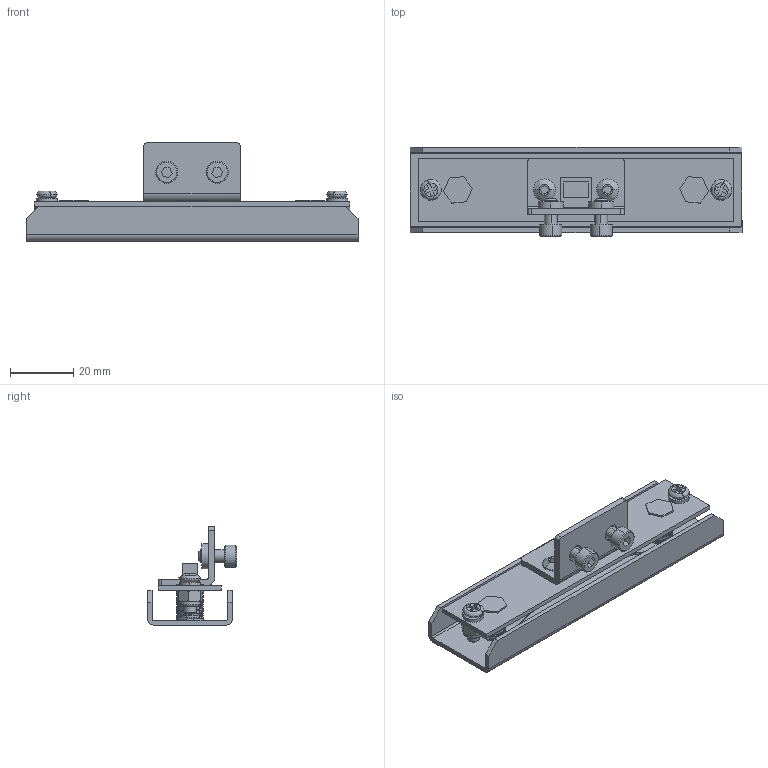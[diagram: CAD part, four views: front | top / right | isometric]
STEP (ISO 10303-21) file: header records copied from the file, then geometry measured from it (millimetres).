
FILE_DESCRIPTION (( 'STEP AP214' ), '1' );
FILE_NAME ('10004.STEP', '2016-09-07T01:09:22', ( '微软用户' ), ( '微软中国' ), 'SwSTEP 2.0', 'SolidWorks 2015', '' );
FILE_SCHEMA (( 'AUTOMOTIVE_DESIGN' ));
Length unit declared in the file: millimetre
Products named in the file (14): RB1004-08-03_1; LD-4X3.5_1; RB1004-08-00_1; YM-M4_1; NLJPTLS-M3X8_1; LNJYZTLS-M4X8_1; spring lock washers--normal type gb_GB_FASTENER_WASHER_SW 4; RB1004-08-01_1; RB1004-08-02_1; 10004; WDKG_1; BYTSZLS-M4X10_1; FSLM-M4_1; YH-D8XL9.5X0.4_1
Assembly tree (22 placements, depth 3):
  10004
    RB1004-08-00_1
      RB1004-08-01_1
      WDKG_1
      YM-M4_1  x2
      RB1004-08-03_1  x2
      RB1004-08-02_1
      BYTSZLS-M4X10_1  x2
      NLJPTLS-M3X8_1  x2
      FSLM-M4_1  x2
      LNJYZTLS-M4X8_1  x2
      YH-D8XL9.5X0.4_1  x2
      LD-4X3.5_1  x2
      spring lock washers--normal type gb_GB_FASTENER_WASHER_SW 4  x2
Bounding box: 105.2 x 28.32 x 31.11 mm (x, y, z)
Volume: 15082.2 mm3; surface area: 21145.6 mm2
Topology: 21 solids, 21 shells, 357 faces, 840 edges, 542 vertices
Faces by surface type: plane 187, cylinder 106, cone 40, bspline 24
Entity records: 13476 total; most frequent: CARTESIAN_POINT 5015, DIRECTION 1170, ORIENTED_EDGE 1084, EDGE_CURVE 542, AXIS2_PLACEMENT_3D 420, VERTEX_POINT 353, LINE 330, VECTOR 330
